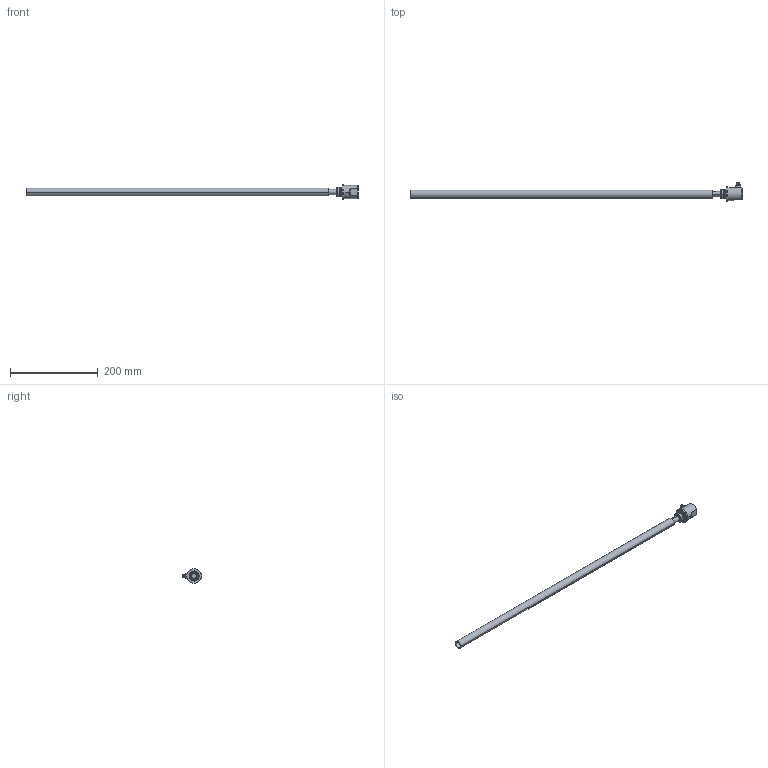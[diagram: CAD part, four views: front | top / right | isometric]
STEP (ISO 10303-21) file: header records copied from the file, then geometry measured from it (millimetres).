
FILE_DESCRIPTION((''),'2;1');
FILE_NAME('EDS-630-S-SR7_MIT_ROHR_ASM','2007-11-29T',('11000065'),(''),'PRO/ENGINEER BY PARAMETRIC TECHNOLOGY CORPORATION, 2007160','PRO/ENGINEER BY PARAMETRIC TECHNOLOGY CORPORATION, 2007160','');
FILE_SCHEMA(('AUTOMOTIVE_DESIGN { 1 2 10303 214 0 1 1 1 }'));
Length unit declared in the file: millimetre
Products named in the file (4): EDS-630-S-SR7; MESSROHR; O-RING-18X1_5; EDS-630-S-SR7_MIT_ROHR_ASM
Assembly tree (3 placements, depth 2):
  EDS-630-S-SR7_MIT_ROHR_ASM
    EDS-630-S-SR7
    MESSROHR
    O-RING-18X1_5
Bounding box: 758.5 x 43.69 x 34 mm (x, y, z)
Volume: 135318.9 mm3; surface area: 96037.3 mm2
Topology: 3 solids, 4 shells, 191 faces, 458 edges, 288 vertices
Faces by surface type: cylinder 93, plane 47, cone 20, sphere 14, torus 13, bspline 4
Entity records: 6263 total; most frequent: CARTESIAN_POINT 1307, DIRECTION 1048, ORIENTED_EDGE 888, AXIS2_PLACEMENT_3D 446, EDGE_CURVE 444, VERTEX_POINT 288, CIRCLE 252, EDGE_LOOP 222
